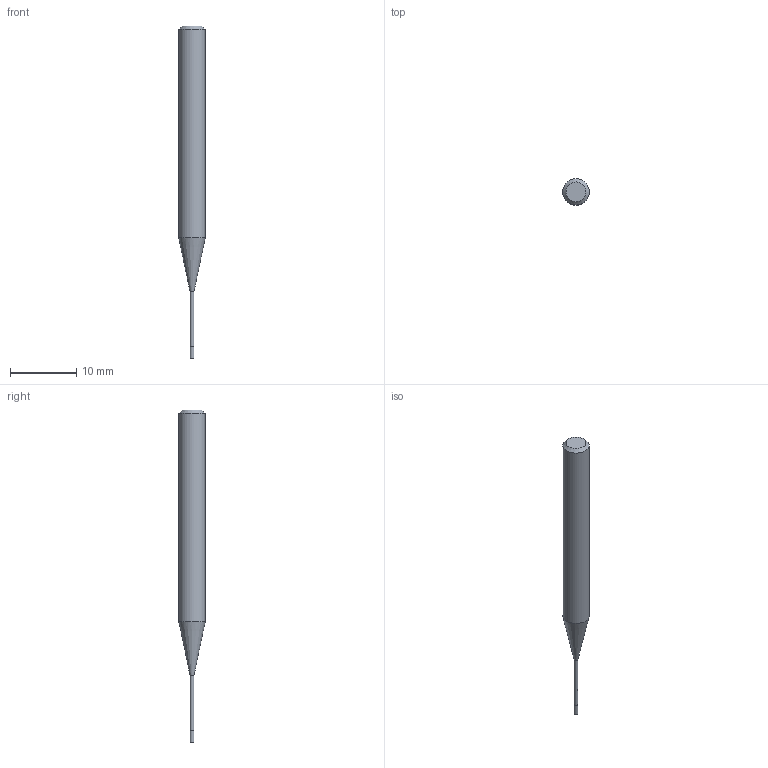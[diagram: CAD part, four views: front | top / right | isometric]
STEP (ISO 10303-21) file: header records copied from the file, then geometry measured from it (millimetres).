
FILE_DESCRIPTION((''),'2;1');
FILE_NAME('C:\Users\nsx150\Desktop\RSE230_20210427\01-00644-00610 RSE230 D0_6X1_8X10.step','2021-05-07T14:52:59',(''),(''),'STEP Write','Mastercam 2021 ... CNC Software, Inc.','');
FILE_SCHEMA(('AUTOMOTIVE_DESIGN'));
Length unit declared in the file: millimetre
Products named in the file (1): None
Bounding box: 4 x 4 x 50 mm (x, y, z)
Volume: 441.4 mm3; surface area: 487.4 mm2
Topology: 2 solids, 2 shells, 9 faces, 12 edges, 7 vertices
Faces by surface type: plane 4, cylinder 3, cone 2
Full cylindrical faces by diameter (mm): 0.56 x1, 0.6 x1, 4 x1
Entity records: 211 total; most frequent: DIRECTION 36, CARTESIAN_POINT 25, AXIS2_PLACEMENT_3D 18, ORIENTED_EDGE 14, EDGE_LOOP 14, STYLED_ITEM 12, ADVANCED_FACE 9, FACE_BOUND 8
